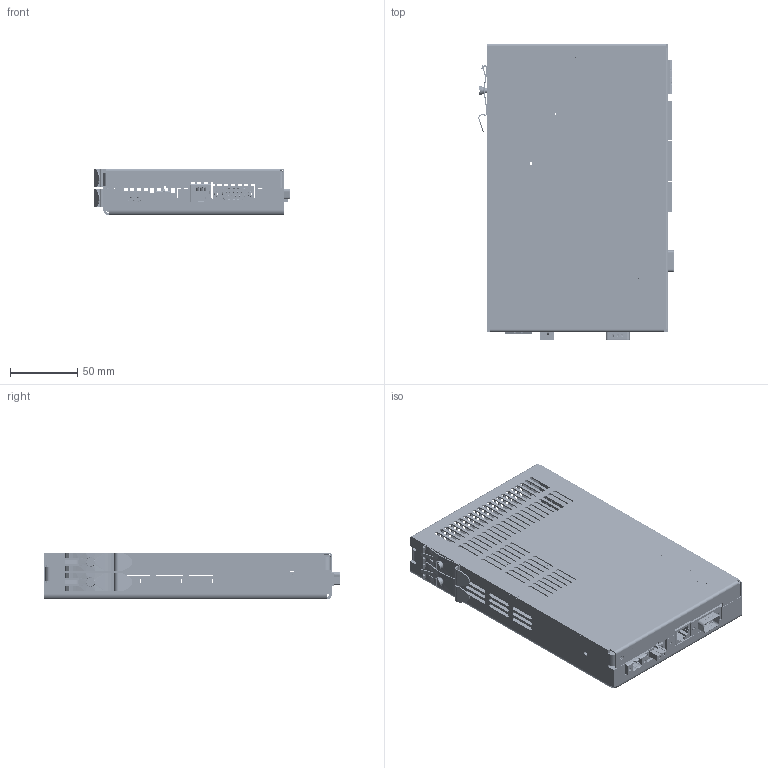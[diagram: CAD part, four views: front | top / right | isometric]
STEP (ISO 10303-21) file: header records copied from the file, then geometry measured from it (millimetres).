
FILE_DESCRIPTION(/* description */ ('Casing Assembly (reduziert)'),/* implementation_level */ '2;1');
FILE_NAME(/* name */ 'C:\Exportierte_CAD-Daten\CD-1075-006574-RevA_Casing Assembly (reduziert).step',/* time_stamp */ '2022-04-13T09:08:05+02:00',/* author */ ('doher'),/* organization */ (''),/* preprocessor_version */ 'ST-DEVELOPER v18.1',/* originating_system */ 'Autodesk Inventor 2021',/* authorisation */ '');
FILE_SCHEMA (('AUTOMOTIVE_DESIGN { 1 0 10303 214 3 1 1 }'));
Products named in the file (1): 006574
Bounding box: 145.7 x 221.3 x 35.01 mm (x, y, z)
Surface area: 237666.5 mm2
Topology: 18 solids, 19 shells, 9241 faces, 25076 edges, 16176 vertices
Faces by surface type: plane 6181, cylinder 1662, bspline 1165, cone 115, torus 83, sphere 35
Full cylindrical faces by diameter (mm): 0.434 x2, 0.457 x4, 0.7 x2, 0.799 x16, 0.8 x18, 0.9 x86, 0.92 x4, 1 x41, 1.09 x11, 1.2 x8, 1.25 x22, 1.3 x14, 1.4 x4, 1.5 x1, 1.6 x19, 1.7 x2, 1.8 x6, 2 x1, 2.013 x4, 2.156 x2, 2.3 x2, 2.4 x6, 2.459 x2, 2.5 x12, 2.8 x4, 3.1 x2, 3.2 x4, 3.242 x4, 3.5 x4, 3.7 x4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
Entity records: 311556 total; most frequent: CARTESIAN_POINT 72342, ORIENTED_EDGE 50108, DIRECTION 42908, EDGE_CURVE 25054, LINE 18272, VECTOR 18272, VERTEX_POINT 16190, AXIS2_PLACEMENT_3D 12318
